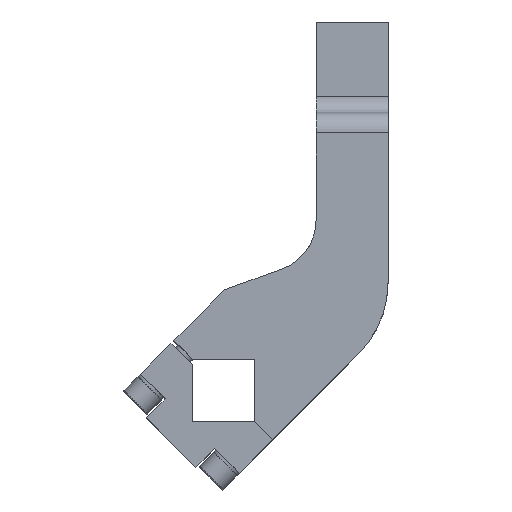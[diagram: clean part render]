
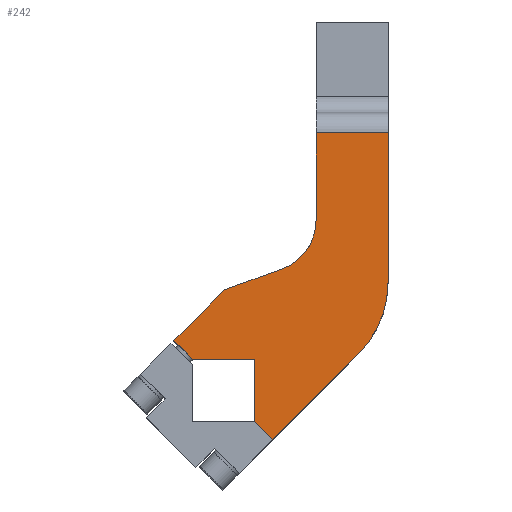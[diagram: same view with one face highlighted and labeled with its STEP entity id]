
A CAD part, top view. The second image highlights one B-rep face of the part: STEP entity #242.
In plain terms, the highlighted planar face has unit normal (0, 0, 1).
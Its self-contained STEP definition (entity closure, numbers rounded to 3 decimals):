
#70=CARTESIAN_POINT('Vertex',(65.355,17.272,54.)) ;
#73=CARTESIAN_POINT('Line Origine',(44.698,-3.385,54.)) ;
#77=CARTESIAN_POINT('Vertex',(24.042,-24.042,54.)) ;
#111=CARTESIAN_POINT('Line Origine',(19.566,-19.566,54.)) ;
#115=CARTESIAN_POINT('Vertex',(15.091,-15.091,54.)) ;
#155=CARTESIAN_POINT('Axis2P3D Location',(0.,0.,54.)) ;
#160=CARTESIAN_POINT('Line Origine',(80.,88.814,54.)) ;
#164=CARTESIAN_POINT('Vertex',(80.,125.,54.)) ;
#166=CARTESIAN_POINT('Vertex',(80.,52.627,54.)) ;
#169=CARTESIAN_POINT('Line Origine',(62.5,125.,54.)) ;
#173=CARTESIAN_POINT('Vertex',(45.,125.,54.)) ;
#176=CARTESIAN_POINT('Line Origine',(45.,103.706,54.)) ;
#180=CARTESIAN_POINT('Vertex',(45.,82.412,54.)) ;
#183=CARTESIAN_POINT('Axis2P3D Location',(20.,82.412,54.)) ;
#187=CARTESIAN_POINT('Vertex',(28.551,58.92,54.)) ;
#190=CARTESIAN_POINT('Line Origine',(14.625,53.852,54.)) ;
#194=CARTESIAN_POINT('Vertex',(0.7,48.783,54.)) ;
#197=CARTESIAN_POINT('Line Origine',(-11.671,36.412,54.)) ;
#201=CARTESIAN_POINT('Vertex',(-24.042,24.042,54.)) ;
#204=CARTESIAN_POINT('Line Origine',(-19.566,19.566,54.)) ;
#208=CARTESIAN_POINT('Vertex',(-15.091,15.091,54.)) ;
#211=CARTESIAN_POINT('Line Origine',(0.,15.091,54.)) ;
#215=CARTESIAN_POINT('Vertex',(15.091,15.091,54.)) ;
#218=CARTESIAN_POINT('Line Origine',(15.091,0.,54.)) ;
#223=CARTESIAN_POINT('Axis2P3D Location',(30.,52.627,54.)) ;
#74=DIRECTION('Vector Direction',(-0.707,-0.707,0.)) ;
#112=DIRECTION('Vector Direction',(0.707,-0.707,0.)) ;
#156=DIRECTION('Axis2P3D Direction',(0.,0.,1.)) ;
#157=DIRECTION('Axis2P3D XDirection',(1.,0.,0.)) ;
#161=DIRECTION('Vector Direction',(0.,1.,0.)) ;
#170=DIRECTION('Vector Direction',(-1.,0.,0.)) ;
#177=DIRECTION('Vector Direction',(0.,1.,0.)) ;
#184=DIRECTION('Axis2P3D Direction',(0.,0.,1.)) ;
#191=DIRECTION('Vector Direction',(-0.94,-0.342,0.)) ;
#198=DIRECTION('Vector Direction',(-0.707,-0.707,0.)) ;
#205=DIRECTION('Vector Direction',(0.707,-0.707,0.)) ;
#212=DIRECTION('Vector Direction',(-1.,0.,0.)) ;
#219=DIRECTION('Vector Direction',(0.,-1.,0.)) ;
#224=DIRECTION('Axis2P3D Direction',(0.,0.,1.)) ;
#158=AXIS2_PLACEMENT_3D('Plane Axis2P3D',#155,#156,#157) ;
#185=AXIS2_PLACEMENT_3D('Circle Axis2P3D',#183,#184,$) ;
#225=AXIS2_PLACEMENT_3D('Circle Axis2P3D',#223,#224,$) ;
#229=ORIENTED_EDGE('',*,*,#168,.F.) ;
#230=ORIENTED_EDGE('',*,*,#175,.T.) ;
#231=ORIENTED_EDGE('',*,*,#182,.T.) ;
#232=ORIENTED_EDGE('',*,*,#189,.T.) ;
#233=ORIENTED_EDGE('',*,*,#196,.T.) ;
#234=ORIENTED_EDGE('',*,*,#203,.T.) ;
#235=ORIENTED_EDGE('',*,*,#210,.T.) ;
#236=ORIENTED_EDGE('',*,*,#217,.T.) ;
#237=ORIENTED_EDGE('',*,*,#222,.T.) ;
#238=ORIENTED_EDGE('',*,*,#117,.T.) ;
#239=ORIENTED_EDGE('',*,*,#79,.T.) ;
#240=ORIENTED_EDGE('',*,*,#227,.T.) ;
#75=VECTOR('Line Direction',#74,1.) ;
#113=VECTOR('Line Direction',#112,1.) ;
#162=VECTOR('Line Direction',#161,1.) ;
#171=VECTOR('Line Direction',#170,1.) ;
#178=VECTOR('Line Direction',#177,1.) ;
#192=VECTOR('Line Direction',#191,1.) ;
#199=VECTOR('Line Direction',#198,1.) ;
#206=VECTOR('Line Direction',#205,1.) ;
#213=VECTOR('Line Direction',#212,1.) ;
#220=VECTOR('Line Direction',#219,1.) ;
#242=ADVANCED_FACE('Brep With Voids',(#241),#159,.T.) ;
#186=CIRCLE('generated circle',#185,25.) ;
#226=CIRCLE('generated circle',#225,50.) ;
#79=EDGE_CURVE('',#78,#71,#76,.F.) ;
#117=EDGE_CURVE('',#116,#78,#114,.T.) ;
#168=EDGE_CURVE('',#165,#167,#163,.F.) ;
#175=EDGE_CURVE('',#165,#174,#172,.T.) ;
#182=EDGE_CURVE('',#174,#181,#179,.F.) ;
#189=EDGE_CURVE('',#181,#188,#186,.F.) ;
#196=EDGE_CURVE('',#188,#195,#193,.T.) ;
#203=EDGE_CURVE('',#195,#202,#200,.T.) ;
#210=EDGE_CURVE('',#202,#209,#207,.T.) ;
#217=EDGE_CURVE('',#209,#216,#214,.F.) ;
#222=EDGE_CURVE('',#216,#116,#221,.T.) ;
#227=EDGE_CURVE('',#71,#167,#226,.T.) ;
#228=EDGE_LOOP('',(#229,#230,#231,#232,#233,#234,#235,#236,#237,#238,#239,#240)) ;
#241=FACE_OUTER_BOUND('',#228,.T.) ;
#76=LINE('Line',#73,#75) ;
#114=LINE('Line',#111,#113) ;
#163=LINE('Line',#160,#162) ;
#172=LINE('Line',#169,#171) ;
#179=LINE('Line',#176,#178) ;
#193=LINE('Line',#190,#192) ;
#200=LINE('Line',#197,#199) ;
#207=LINE('Line',#204,#206) ;
#214=LINE('Line',#211,#213) ;
#221=LINE('Line',#218,#220) ;
#159=PLANE('Plane',#158) ;
#71=VERTEX_POINT('',#70) ;
#78=VERTEX_POINT('',#77) ;
#116=VERTEX_POINT('',#115) ;
#165=VERTEX_POINT('',#164) ;
#167=VERTEX_POINT('',#166) ;
#174=VERTEX_POINT('',#173) ;
#181=VERTEX_POINT('',#180) ;
#188=VERTEX_POINT('',#187) ;
#195=VERTEX_POINT('',#194) ;
#202=VERTEX_POINT('',#201) ;
#209=VERTEX_POINT('',#208) ;
#216=VERTEX_POINT('',#215) ;
